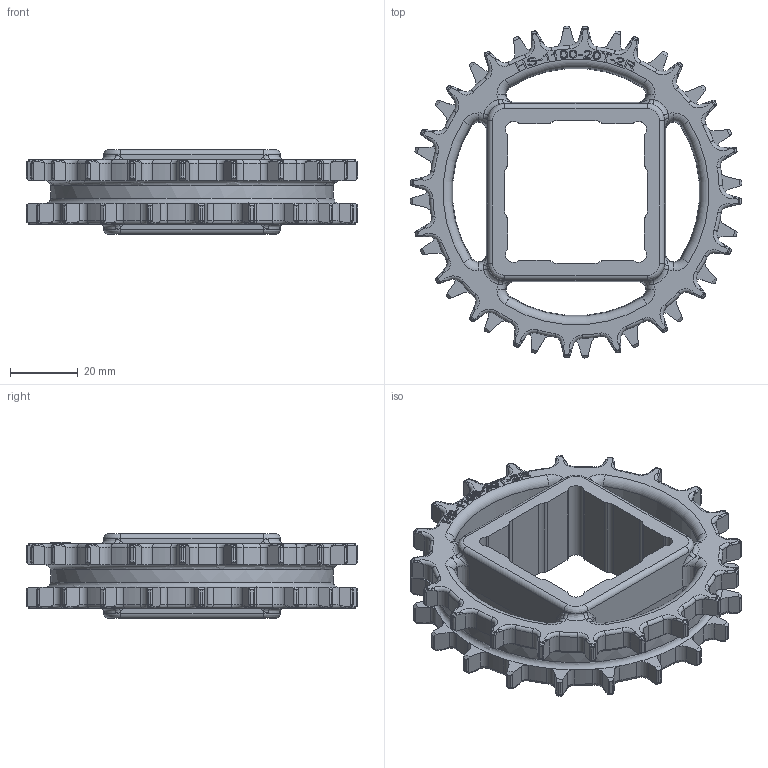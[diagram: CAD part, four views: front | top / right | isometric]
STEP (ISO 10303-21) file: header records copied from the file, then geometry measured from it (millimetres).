
FILE_DESCRIPTION(/* description */ (''),/* implementation_level */ '2;1');
FILE_NAME(/* name */ 'HS-1100-N-20T.stp',/* time_stamp */ '2025-09-11T17:21:02+08:00',/* author */ (''),/* organization */ (''),/* preprocessor_version */ 'ST-DEVELOPER v15',/* originating_system */ 'SIEMENS PLM Software NX 8.5',/* authorisation */ '');
FILE_SCHEMA (('AP203_CONFIGURATION_CONTROLLED_3D_DESIGN_OF_MECHANICAL_PARTS_AND_ASSEMBLIES_MIM_LF { 1 0 10303 403 2 1 2}'));
Length unit declared in the file: millimetre
Products named in the file (1): Admi2A205363711s
Bounding box: 97.87 x 97.87 x 25 mm (x, y, z)
Volume: 61044.4 mm3; surface area: 25762.9 mm2
Topology: 1 solids, 1 shells, 1381 faces, 3399 edges, 1853 vertices
Faces by surface type: cylinder 380, torus 243, plane 237, bspline 208, sphere 160, cone 121, extrusion 32
Full cylindrical faces by diameter (mm): 83.444 x1
Entity records: 54201 total; most frequent: CARTESIAN_POINT 14505, ORIENTED_EDGE 6424, DIRECTION 6322, EDGE_CURVE 3212, AXIS2_PLACEMENT_3D 2690, VERTEX_POINT 1848, CIRCLE 1516, EDGE_LOOP 1406
